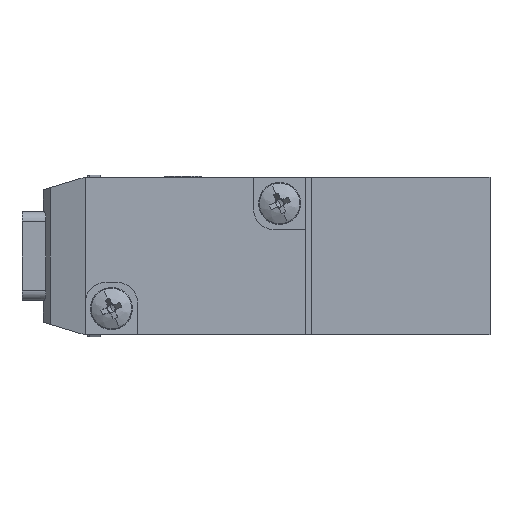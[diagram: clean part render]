
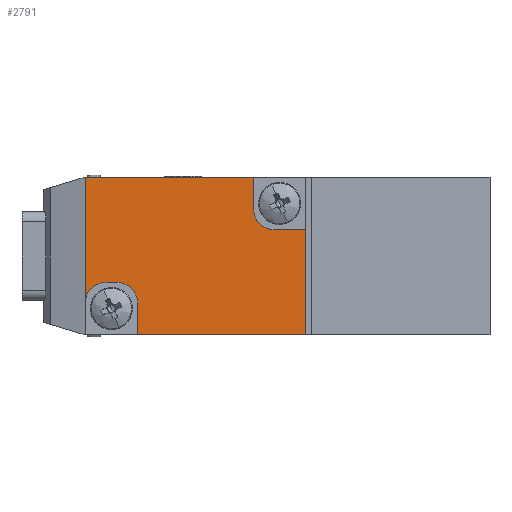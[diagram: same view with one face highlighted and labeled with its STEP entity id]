
A CAD part, left-side view. The second image highlights one B-rep face of the part: STEP entity #2791.
In plain terms, the highlighted planar face has unit normal (-1, 0, 0) as drawn and (1, 0, 0) by its records, which use the part's own axes.
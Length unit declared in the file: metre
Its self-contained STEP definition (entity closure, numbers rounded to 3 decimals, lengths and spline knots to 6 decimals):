
#16 = VECTOR ( 'NONE', #6575, 1. ) ;
#46 = CARTESIAN_POINT ( 'NONE',  ( 0.01825, -0.011, -0.0025 ) ) ;
#147 = CARTESIAN_POINT ( 'NONE',  ( 0.01825, -0.0075, -0.0045 ) ) ;
#160 = DIRECTION ( 'NONE',  ( 0., 1., 0. ) ) ;
#169 = CARTESIAN_POINT ( 'NONE',  ( 0.01825, -0.0125, -0.0075 ) ) ;
#202 = ORIENTED_EDGE ( 'NONE', *, *, #6069, .F. ) ;
#231 = ORIENTED_EDGE ( 'NONE', *, *, #2161, .F. ) ;
#291 = CARTESIAN_POINT ( 'NONE',  ( 0.01825, 0.0035, 0.0045 ) ) ;
#308 = PLANE ( 'NONE',  #2234 ) ;
#337 = DIRECTION ( 'NONE',  ( -1., 0., 0. ) ) ;
#349 = DIRECTION ( 'NONE',  ( 0., 0., 1. ) ) ;
#362 = VECTOR ( 'NONE', #3918, 1. ) ;
#645 = ORIENTED_EDGE ( 'NONE', *, *, #9993, .F. ) ;
#708 = VERTEX_POINT ( 'NONE', #6898 ) ;
#713 = CARTESIAN_POINT ( 'NONE',  ( 0.01825, -0.0095, -0.0025 ) ) ;
#843 = DIRECTION ( 'NONE',  ( 0., 0., -1. ) ) ;
#1249 = ORIENTED_EDGE ( 'NONE', *, *, #7477, .F. ) ;
#1525 = EDGE_CURVE ( 'NONE', #1658, #6268, #8691, .T. ) ;
#1636 = EDGE_CURVE ( 'NONE', #3702, #7932, #5652, .T. ) ;
#1658 = VERTEX_POINT ( 'NONE', #7548 ) ;
#1786 = VECTOR ( 'NONE', #7149, 1. ) ;
#1888 = VECTOR ( 'NONE', #160, 1. ) ;
#2161 = EDGE_CURVE ( 'NONE', #9542, #9799, #9961, .T. ) ;
#2182 = CARTESIAN_POINT ( 'NONE',  ( 0.01825, -0.0075, -0.0075 ) ) ;
#2234 = AXIS2_PLACEMENT_3D ( 'NONE', #169, #337, #349 ) ;
#2791 = ADVANCED_FACE ( 'NONE', ( #9436 ), #308, .F. ) ;
#2860 = VERTEX_POINT ( 'NONE', #713 ) ;
#2915 = CARTESIAN_POINT ( 'NONE',  ( 0.01825, 0.0055, 0.0025 ) ) ;
#3031 = CARTESIAN_POINT ( 'NONE',  ( 0.01825, -0.0125, 0. ) ) ;
#3086 = LINE ( 'NONE', #8530, #6940 ) ;
#3148 = VECTOR ( 'NONE', #7234, 1. ) ;
#3229 = EDGE_CURVE ( 'NONE', #5858, #708, #4445, .T. ) ;
#3344 = ORIENTED_EDGE ( 'NONE', *, *, #1525, .F. ) ;
#3399 = LINE ( 'NONE', #9658, #3148 ) ;
#3702 = VERTEX_POINT ( 'NONE', #8775 ) ;
#3818 = VERTEX_POINT ( 'NONE', #9999 ) ;
#3824 = CARTESIAN_POINT ( 'NONE',  ( 0.01825, -0.002, 0.0075 ) ) ;
#3913 = ORIENTED_EDGE ( 'NONE', *, *, #7812, .T. ) ;
#3918 = DIRECTION ( 'NONE',  ( 0., -1., 0. ) ) ;
#4017 = CARTESIAN_POINT ( 'NONE',  ( 0.01825, 0.0035, 0.0075 ) ) ;
#4050 = LINE ( 'NONE', #6496, #1786 ) ;
#4090 = EDGE_CURVE ( 'NONE', #9799, #1658, #4050, .T. ) ;
#4232 = AXIS2_PLACEMENT_3D ( 'NONE', #4410, #4441, #4490 ) ;
#4410 = CARTESIAN_POINT ( 'NONE',  ( 0.01825, 0.0065, 0.0045 ) ) ;
#4441 = DIRECTION ( 'NONE',  ( 1., 0., 0. ) ) ;
#4445 = LINE ( 'NONE', #3824, #362 ) ;
#4490 = DIRECTION ( 'NONE',  ( 0., 0., 1. ) ) ;
#4594 = ORIENTED_EDGE ( 'NONE', *, *, #5547, .T. ) ;
#4989 = EDGE_CURVE ( 'NONE', #708, #3818, #9397, .T. ) ;
#5048 = EDGE_LOOP ( 'NONE', ( #4594, #202, #3913, #8210, #1249, #3344, #6630, #231, #645, #5290, #7960 ) ) ;
#5290 = ORIENTED_EDGE ( 'NONE', *, *, #3229, .T. ) ;
#5338 = VECTOR ( 'NONE', #9496, 1. ) ;
#5515 = DIRECTION ( 'NONE',  ( 1., 0., 0. ) ) ;
#5534 = CARTESIAN_POINT ( 'NONE',  ( 0.01825, 0.0055, 0.0045 ) ) ;
#5547 = EDGE_CURVE ( 'NONE', #3818, #2860, #7778, .T. ) ;
#5566 = DIRECTION ( 'NONE',  ( 0., 0., 1. ) ) ;
#5652 = LINE ( 'NONE', #7004, #16 ) ;
#5858 = VERTEX_POINT ( 'NONE', #4017 ) ;
#5968 = VECTOR ( 'NONE', #8449, 1. ) ;
#6069 = EDGE_CURVE ( 'NONE', #6717, #2860, #7768, .T. ) ;
#6268 = VERTEX_POINT ( 'NONE', #8226 ) ;
#6496 = CARTESIAN_POINT ( 'NONE',  ( 0.01825, -0.002, 0.0025 ) ) ;
#6523 = CARTESIAN_POINT ( 'NONE',  ( 0.01825, -0.0095, -0.0045 ) ) ;
#6544 = DIRECTION ( 'NONE',  ( 1., 0., 0. ) ) ;
#6559 = DIRECTION ( 'NONE',  ( 0., 0., 1. ) ) ;
#6575 = DIRECTION ( 'NONE',  ( 0., -1., 0. ) ) ;
#6630 = ORIENTED_EDGE ( 'NONE', *, *, #4090, .F. ) ;
#6717 = VERTEX_POINT ( 'NONE', #147 ) ;
#6898 = CARTESIAN_POINT ( 'NONE',  ( 0.01825, -0.0125, 0.0075 ) ) ;
#6940 = VECTOR ( 'NONE', #843, 1. ) ;
#7004 = CARTESIAN_POINT ( 'NONE',  ( 0.01825, -0.002, -0.0075 ) ) ;
#7149 = DIRECTION ( 'NONE',  ( 0., 1., 0. ) ) ;
#7234 = DIRECTION ( 'NONE',  ( 0., 0., -1. ) ) ;
#7477 = EDGE_CURVE ( 'NONE', #6268, #3702, #7613, .T. ) ;
#7548 = CARTESIAN_POINT ( 'NONE',  ( 0.01825, 0.0065, 0.0025 ) ) ;
#7613 = LINE ( 'NONE', #9097, #5338 ) ;
#7768 = CIRCLE ( 'NONE', #9475, 0.002 ) ;
#7778 = LINE ( 'NONE', #46, #1888 ) ;
#7812 = EDGE_CURVE ( 'NONE', #6717, #7932, #3399, .T. ) ;
#7932 = VERTEX_POINT ( 'NONE', #2182 ) ;
#7960 = ORIENTED_EDGE ( 'NONE', *, *, #4989, .T. ) ;
#7979 = AXIS2_PLACEMENT_3D ( 'NONE', #5534, #5515, #5566 ) ;
#8210 = ORIENTED_EDGE ( 'NONE', *, *, #1636, .F. ) ;
#8226 = CARTESIAN_POINT ( 'NONE',  ( 0.01825, 0.0085, 0.0045 ) ) ;
#8449 = DIRECTION ( 'NONE',  ( 0., 0., -1. ) ) ;
#8530 = CARTESIAN_POINT ( 'NONE',  ( 0.01825, 0.0035, 0. ) ) ;
#8691 = CIRCLE ( 'NONE', #4232, 0.002 ) ;
#8775 = CARTESIAN_POINT ( 'NONE',  ( 0.01825, 0.0085, -0.0075 ) ) ;
#9097 = CARTESIAN_POINT ( 'NONE',  ( 0.01825, 0.0085, 0. ) ) ;
#9397 = LINE ( 'NONE', #3031, #5968 ) ;
#9436 = FACE_OUTER_BOUND ( 'NONE', #5048, .T. ) ;
#9475 = AXIS2_PLACEMENT_3D ( 'NONE', #6523, #6544, #6559 ) ;
#9496 = DIRECTION ( 'NONE',  ( 0., 0., -1. ) ) ;
#9542 = VERTEX_POINT ( 'NONE', #291 ) ;
#9658 = CARTESIAN_POINT ( 'NONE',  ( 0.01825, -0.0075, -0.006 ) ) ;
#9799 = VERTEX_POINT ( 'NONE', #2915 ) ;
#9961 = CIRCLE ( 'NONE', #7979, 0.002 ) ;
#9993 = EDGE_CURVE ( 'NONE', #5858, #9542, #3086, .T. ) ;
#9999 = CARTESIAN_POINT ( 'NONE',  ( 0.01825, -0.0125, -0.0025 ) ) ;
